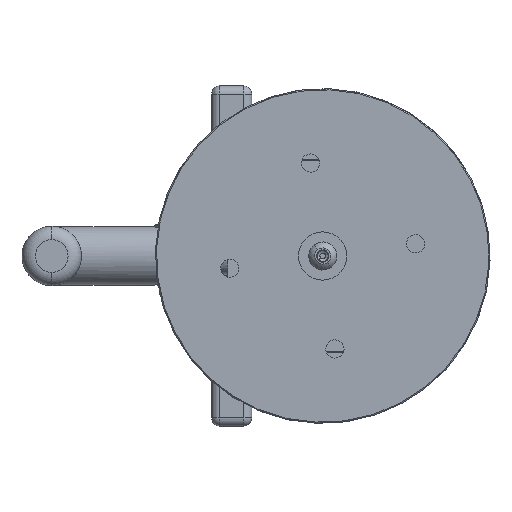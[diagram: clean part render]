
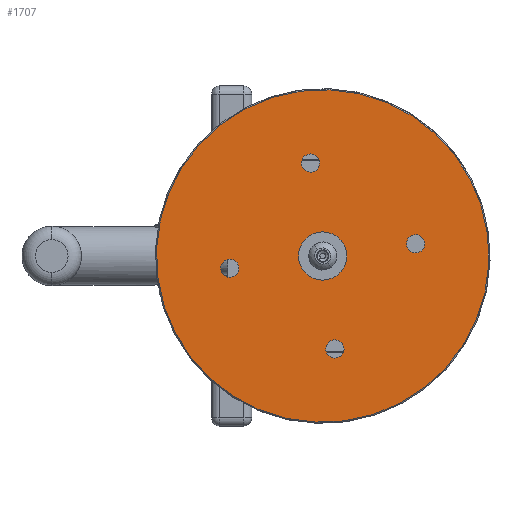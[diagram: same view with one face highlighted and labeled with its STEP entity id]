
A CAD part, left-side view. The second image highlights one B-rep face of the part: STEP entity #1707.
In plain terms, the highlighted planar face has unit normal (-1, 0, 0).
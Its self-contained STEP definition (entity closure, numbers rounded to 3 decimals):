
#958 = AXIS2_PLACEMENT_3D ( 'NONE', #13573, #13575, #13576 ) ;
#995 = AXIS2_PLACEMENT_3D ( 'NONE', #13406, #13407, #13397 ) ;
#1042 = AXIS2_PLACEMENT_3D ( 'NONE', #13412, #13537, #13433 ) ;
#1060 = AXIS2_PLACEMENT_3D ( 'NONE', #13312, #13306, #13305 ) ;
#1075 = EDGE_CURVE ( 'NONE', #12765, #12783, #4493, .T. ) ;
#1092 = EDGE_CURVE ( 'NONE', #13168, #13138, #4379, .T. ) ;
#1097 = EDGE_CURVE ( 'NONE', #12887, #13259, #4427, .T. ) ;
#1124 = EDGE_CURVE ( 'NONE', #13110, #12778, #4422, .T. ) ;
#1155 = AXIS2_PLACEMENT_3D ( 'NONE', #13548, #13547, #13546 ) ;
#1287 = AXIS2_PLACEMENT_3D ( 'NONE', #7370, #7491, #7363 ) ;
#1305 = EDGE_CURVE ( 'NONE', #13171, #13147, #4817, .T. ) ;
#1345 = AXIS2_PLACEMENT_3D ( 'NONE', #7923, #7918, #7915 ) ;
#1355 = AXIS2_PLACEMENT_3D ( 'NONE', #13527, #13366, #13367 ) ;
#1398 = EDGE_CURVE ( 'NONE', #13147, #13171, #4792, .T. ) ;
#1498 = AXIS2_PLACEMENT_3D ( 'NONE', #10612, #10603, #10601 ) ;
#1707 = ADVANCED_FACE ( 'NONE', ( #3204, #3006, #3099, #3095, #3102, #3407 ), #10607, .T. ) ;
#2620 = EDGE_LOOP ( 'NONE', ( #9111, #8866 ) ) ;
#2805 = CIRCLE ( 'NONE', #1287, 3.4 ) ;
#2953 = CIRCLE ( 'NONE', #1345, 62.1 ) ;
#3003 = EDGE_LOOP ( 'NONE', ( #8827, #9112 ) ) ;
#3006 = FACE_BOUND ( 'NONE', #3186, .T. ) ;
#3095 = FACE_BOUND ( 'NONE', #2620, .T. ) ;
#3099 = FACE_BOUND ( 'NONE', #3003, .T. ) ;
#3102 = FACE_BOUND ( 'NONE', #3291, .T. ) ;
#3186 = EDGE_LOOP ( 'NONE', ( #9079, #8826 ) ) ;
#3204 = FACE_BOUND ( 'NONE', #3242, .T. ) ;
#3229 = EDGE_LOOP ( 'NONE', ( #8944, #9167 ) ) ;
#3242 = EDGE_LOOP ( 'NONE', ( #9131, #9238 ) ) ;
#3291 = EDGE_LOOP ( 'NONE', ( #8863, #8860 ) ) ;
#3407 = FACE_OUTER_BOUND ( 'NONE', #3229, .T. ) ;
#4379 = CIRCLE ( 'NONE', #995, 7.75 ) ;
#4422 = CIRCLE ( 'NONE', #1355, 3.4 ) ;
#4427 = CIRCLE ( 'NONE', #1042, 3.4 ) ;
#4493 = CIRCLE ( 'NONE', #1155, 3.4 ) ;
#4792 = CIRCLE ( 'NONE', #958, 3.4 ) ;
#4817 = CIRCLE ( 'NONE', #1060, 3.4 ) ;
#4869 = CARTESIAN_POINT ( 'NONE',  ( -72., 61.645, -1.188 ) ) ;
#4884 = CARTESIAN_POINT ( 'NONE',  ( -72., 27.509, 7.684 ) ) ;
#5038 = CARTESIAN_POINT ( 'NONE',  ( -72., 34.589, 61.571 ) ) ;
#5111 = CARTESIAN_POINT ( 'NONE',  ( -72., 22.384, -31.331 ) ) ;
#5139 = CARTESIAN_POINT ( 'NONE',  ( -72., -8.645, 1.188 ) ) ;
#5161 = CARTESIAN_POINT ( 'NONE',  ( -72., 18.411, -61.571 ) ) ;
#5184 = CARTESIAN_POINT ( 'NONE',  ( -72., -7.759, 7.93 ) ) ;
#5217 = CARTESIAN_POINT ( 'NONE',  ( -72., 30.616, 31.331 ) ) ;
#5338 = CARTESIAN_POINT ( 'NONE',  ( -72., 60.759, -7.93 ) ) ;
#5401 = CARTESIAN_POINT ( 'NONE',  ( -72., 21.498, -38.073 ) ) ;
#5541 = CARTESIAN_POINT ( 'NONE',  ( -72., 25.491, -7.684 ) ) ;
#5576 = CARTESIAN_POINT ( 'NONE',  ( -72., 31.502, 38.073 ) ) ;
#5579 = DIRECTION ( 'NONE',  ( 0., -0.13, -0.991 ) ) ;
#5581 = CARTESIAN_POINT ( 'NONE',  ( -72., 26.5, 0. ) ) ;
#5582 = DIRECTION ( 'NONE',  ( -1., 0., 0. ) ) ;
#7363 = DIRECTION ( 'NONE',  ( 0., -0.13, -0.991 ) ) ;
#7370 = CARTESIAN_POINT ( 'NONE',  ( -72., 31.059, 34.702 ) ) ;
#7491 = DIRECTION ( 'NONE',  ( -1., 0., 0. ) ) ;
#7915 = DIRECTION ( 'NONE',  ( 0., -0.13, -0.991 ) ) ;
#7918 = DIRECTION ( 'NONE',  ( -1., 0., 0. ) ) ;
#7923 = CARTESIAN_POINT ( 'NONE',  ( -72., 26.5, 0. ) ) ;
#8564 = CIRCLE ( 'NONE', #14332, 3.4 ) ;
#8646 = CIRCLE ( 'NONE', #14301, 62.1 ) ;
#8776 = CIRCLE ( 'NONE', #14348, 3.4 ) ;
#8782 = CIRCLE ( 'NONE', #14260, 7.75 ) ;
#8826 = ORIENTED_EDGE ( 'NONE', *, *, #1097, .F. ) ;
#8827 = ORIENTED_EDGE ( 'NONE', *, *, #1398, .F. ) ;
#8860 = ORIENTED_EDGE ( 'NONE', *, *, #11605, .T. ) ;
#8863 = ORIENTED_EDGE ( 'NONE', *, *, #1092, .T. ) ;
#8866 = ORIENTED_EDGE ( 'NONE', *, *, #1124, .F. ) ;
#8944 = ORIENTED_EDGE ( 'NONE', *, *, #11633, .T. ) ;
#9079 = ORIENTED_EDGE ( 'NONE', *, *, #11579, .F. ) ;
#9111 = ORIENTED_EDGE ( 'NONE', *, *, #11126, .F. ) ;
#9112 = ORIENTED_EDGE ( 'NONE', *, *, #1305, .F. ) ;
#9131 = ORIENTED_EDGE ( 'NONE', *, *, #11602, .F. ) ;
#9167 = ORIENTED_EDGE ( 'NONE', *, *, #11192, .T. ) ;
#9238 = ORIENTED_EDGE ( 'NONE', *, *, #1075, .F. ) ;
#10601 = DIRECTION ( 'NONE',  ( 0., -0.13, -0.991 ) ) ;
#10603 = DIRECTION ( 'NONE',  ( -1., 0., 0. ) ) ;
#10607 = PLANE ( 'NONE',  #1498 ) ;
#10612 = CARTESIAN_POINT ( 'NONE',  ( -72., 26.5, 0. ) ) ;
#11126 = EDGE_CURVE ( 'NONE', #12778, #13110, #2805, .T. ) ;
#11192 = EDGE_CURVE ( 'NONE', #12770, #13349, #2953, .T. ) ;
#11579 = EDGE_CURVE ( 'NONE', #13259, #12887, #8564, .T. ) ;
#11602 = EDGE_CURVE ( 'NONE', #12783, #12765, #8776, .T. ) ;
#11605 = EDGE_CURVE ( 'NONE', #13138, #13168, #8782, .T. ) ;
#11633 = EDGE_CURVE ( 'NONE', #13349, #12770, #8646, .T. ) ;
#11997 = DIRECTION ( 'NONE',  ( -1., 0., 0. ) ) ;
#12031 = DIRECTION ( 'NONE',  ( 0., -0.13, -0.991 ) ) ;
#12159 = CARTESIAN_POINT ( 'NONE',  ( -72., 21.941, -34.702 ) ) ;
#12425 = DIRECTION ( 'NONE',  ( 1., 0., 0. ) ) ;
#12434 = DIRECTION ( 'NONE',  ( 0., 0.13, 0.991 ) ) ;
#12461 = DIRECTION ( 'NONE',  ( 0., -0.13, -0.991 ) ) ;
#12494 = DIRECTION ( 'NONE',  ( -1., 0., 0. ) ) ;
#12500 = CARTESIAN_POINT ( 'NONE',  ( -72., 26.5, 0. ) ) ;
#12507 = CARTESIAN_POINT ( 'NONE',  ( -72., -8.202, 4.559 ) ) ;
#12765 = VERTEX_POINT ( 'NONE', #5184 ) ;
#12770 = VERTEX_POINT ( 'NONE', #5161 ) ;
#12778 = VERTEX_POINT ( 'NONE', #5217 ) ;
#12783 = VERTEX_POINT ( 'NONE', #5139 ) ;
#12887 = VERTEX_POINT ( 'NONE', #5111 ) ;
#13110 = VERTEX_POINT ( 'NONE', #5576 ) ;
#13138 = VERTEX_POINT ( 'NONE', #5541 ) ;
#13147 = VERTEX_POINT ( 'NONE', #5338 ) ;
#13168 = VERTEX_POINT ( 'NONE', #4884 ) ;
#13171 = VERTEX_POINT ( 'NONE', #4869 ) ;
#13259 = VERTEX_POINT ( 'NONE', #5401 ) ;
#13305 = DIRECTION ( 'NONE',  ( 0., -0.13, -0.991 ) ) ;
#13306 = DIRECTION ( 'NONE',  ( -1., 0., 0. ) ) ;
#13312 = CARTESIAN_POINT ( 'NONE',  ( -72., 61.202, -4.559 ) ) ;
#13349 = VERTEX_POINT ( 'NONE', #5038 ) ;
#13366 = DIRECTION ( 'NONE',  ( -1., 0., 0. ) ) ;
#13367 = DIRECTION ( 'NONE',  ( 0., -0.13, -0.991 ) ) ;
#13397 = DIRECTION ( 'NONE',  ( 0., 0.13, 0.991 ) ) ;
#13406 = CARTESIAN_POINT ( 'NONE',  ( -72., 26.5, 0. ) ) ;
#13407 = DIRECTION ( 'NONE',  ( 1., 0., 0. ) ) ;
#13412 = CARTESIAN_POINT ( 'NONE',  ( -72., 21.941, -34.702 ) ) ;
#13433 = DIRECTION ( 'NONE',  ( 0., -0.13, -0.991 ) ) ;
#13527 = CARTESIAN_POINT ( 'NONE',  ( -72., 31.059, 34.702 ) ) ;
#13537 = DIRECTION ( 'NONE',  ( -1., 0., 0. ) ) ;
#13546 = DIRECTION ( 'NONE',  ( 0., -0.13, -0.991 ) ) ;
#13547 = DIRECTION ( 'NONE',  ( -1., 0., 0. ) ) ;
#13548 = CARTESIAN_POINT ( 'NONE',  ( -72., -8.202, 4.559 ) ) ;
#13573 = CARTESIAN_POINT ( 'NONE',  ( -72., 61.202, -4.559 ) ) ;
#13575 = DIRECTION ( 'NONE',  ( -1., 0., 0. ) ) ;
#13576 = DIRECTION ( 'NONE',  ( 0., -0.13, -0.991 ) ) ;
#14260 = AXIS2_PLACEMENT_3D ( 'NONE', #12500, #12425, #12434 ) ;
#14301 = AXIS2_PLACEMENT_3D ( 'NONE', #5581, #5582, #5579 ) ;
#14332 = AXIS2_PLACEMENT_3D ( 'NONE', #12159, #11997, #12031 ) ;
#14348 = AXIS2_PLACEMENT_3D ( 'NONE', #12507, #12494, #12461 ) ;
